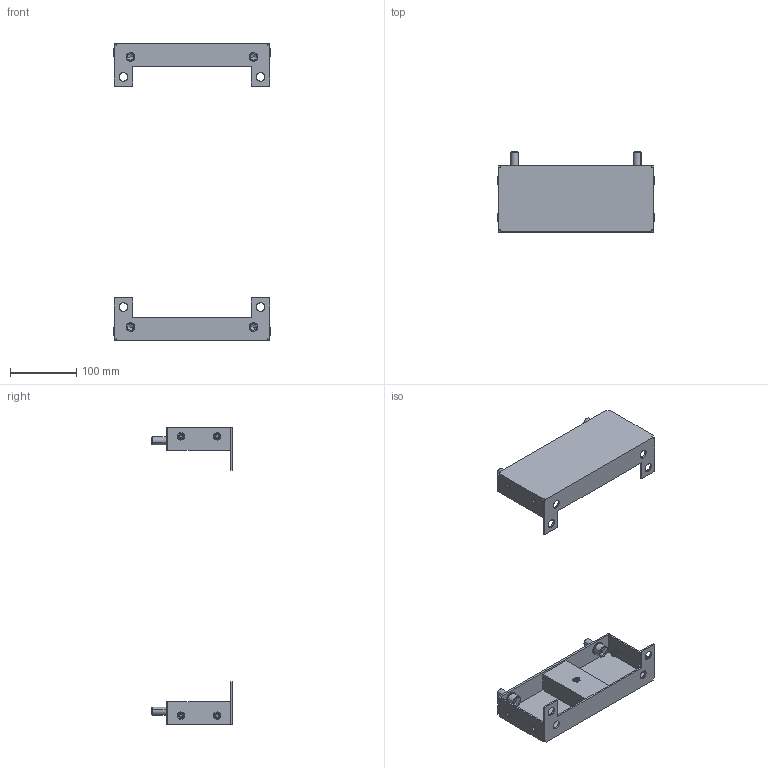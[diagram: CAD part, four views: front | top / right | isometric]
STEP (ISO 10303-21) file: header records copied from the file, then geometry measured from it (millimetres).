
FILE_DESCRIPTION (( 'STEP AP203' ), '1' );
FILE_NAME ('R6PLB30 H=450.STEP', '2025-05-16T11:38:02', ( '' ), ( '' ), 'SwSTEP 2.0', 'SolidWorks 2022', '' );
FILE_SCHEMA (( 'CONFIG_CONTROL_DESIGN' ));
Length unit declared in the file: millimetre
Products named in the file (8): RB.3309.00.00.0 СБ simple_-01; M6 MGS-MPO-0635_thread; RB.3309.00.02.0 simple; R6PLB30 H=450; RB.3309.00.01.0 simple_-01; M12x25 DIN 912 HX cl.8,8 Zinc_stright; 12 DIN 6798 A Zinc; M6 MGS-MPO-0635_straight
Assembly tree (17 placements, depth 3):
  R6PLB30 H=450
    RB.3309.00.00.0 СБ simple_-01  x2
      RB.3309.00.01.0 simple_-01
      M6 MGS-MPO-0635_thread
      RB.3309.00.02.0 simple
      M6 MGS-MPO-0635_straight
    12 DIN 6798 A Zinc  x4
    M12x25 DIN 912 HX cl.8,8 Zinc_stright  x4
Bounding box: 236.7 x 121.5 x 450 mm (x, y, z)
Volume: 302950.7 mm3; surface area: 250656.7 mm2
Topology: 22 solids, 22 shells, 1388 faces, 3688 edges, 2136 vertices
Faces by surface type: plane 548, cylinder 484, bspline 168, sphere 120, cone 36, torus 32
Entity records: 14938 total; most frequent: CARTESIAN_POINT 5753, ORIENTED_EDGE 1768, DIRECTION 1535, EDGE_CURVE 884, VERTEX_POINT 558, VECTOR 533, LINE 533, AXIS2_PLACEMENT_3D 501
